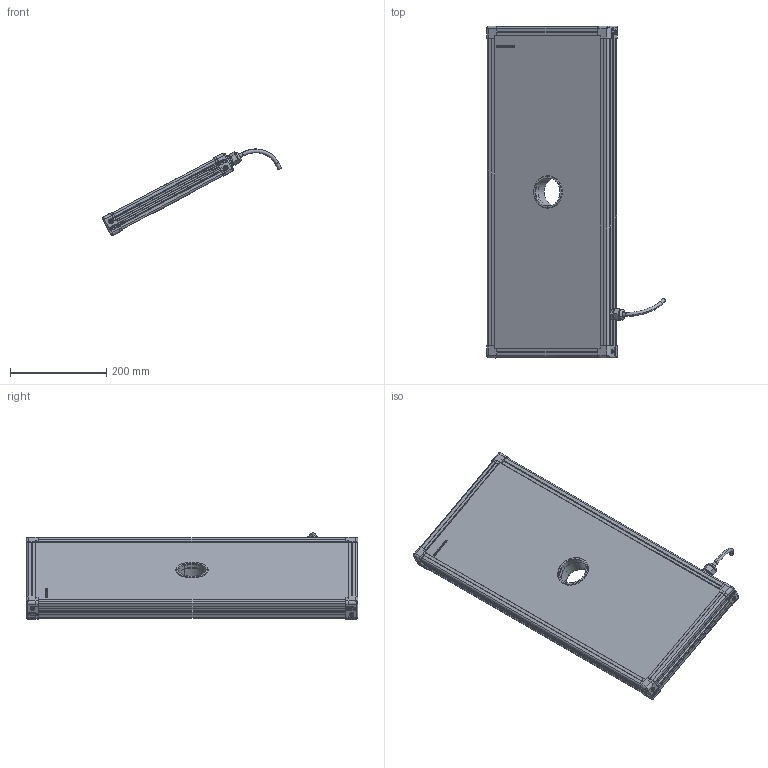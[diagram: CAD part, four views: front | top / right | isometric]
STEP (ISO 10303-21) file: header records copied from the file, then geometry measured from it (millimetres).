
FILE_DESCRIPTION (( 'STEP AP214' ), '1' );
FILE_NAME ('EFFI-BL-250-650-ZZZ-1M12P.STEP', '2021-06-21T08:28:19', ( '' ), ( '' ), 'SwSTEP 2.0', 'SolidWorks 2021', '' );
FILE_SCHEMA (( 'AUTOMOTIVE_DESIGN' ));
Length unit declared in the file: millimetre
Products named in the file (13): profile X_PERCE; EFFI-BL-250-650-ZZZ-1M12P; Pièce13^EFFI-BL-XXX-YYY-ZZZ (1 connecteur) M12POWER Ø58.5; 001037; M12 power_AVEC CABLE D8.1; petite joue; 000629; profile Y_PERCE; petite joue + vis; Assemblage Ø58.5; 001038; 000590
Assembly tree (19 placements, depth 3):
  EFFI-BL-250-650-ZZZ-1M12P
    profile X_PERCE  x2
    profile Y_PERCE
    profile Y_PERCE
    Pièce13^EFFI-BL-XXX-YYY-ZZZ (1 connecteur) M12POWER Ø58.5
    petite joue + vis  x4
      petite joue
      000629
    M12 power_AVEC CABLE D8.1
    Assemblage Ø58.5
      001037
      001038
      000590  x3
Bounding box: 370.8 x 689 x 179.05 mm (x, y, z)
Volume: 6791918.4 mm3; surface area: 718004.6 mm2
Topology: 22 solids, 25 shells, 3946 faces, 10510 edges, 6901 vertices
Faces by surface type: plane 2446, cylinder 718, bspline 591, cone 154, torus 29, sphere 8
Entity records: 55870 total; most frequent: CARTESIAN_POINT 22540, ORIENTED_EDGE 6994, DIRECTION 5720, EDGE_CURVE 3499, LINE 2454, VECTOR 2454, VERTEX_POINT 2302, AXIS2_PLACEMENT_3D 1633
